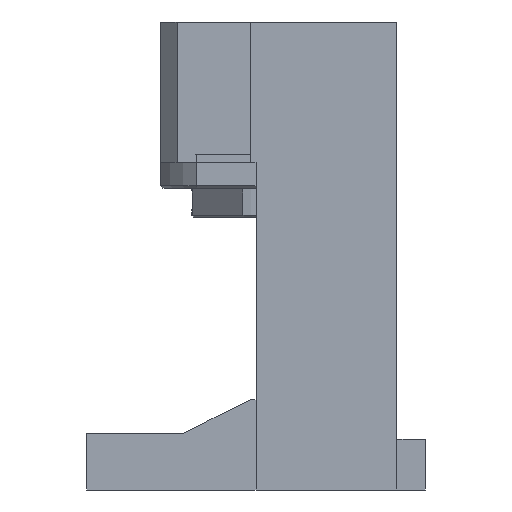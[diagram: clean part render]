
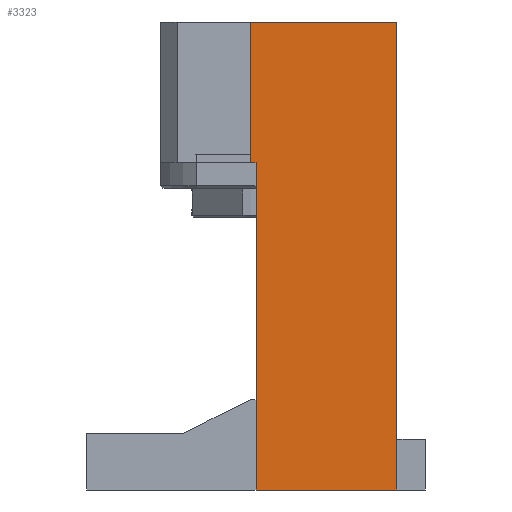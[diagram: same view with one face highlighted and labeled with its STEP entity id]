
A CAD part, left-side view. The second image highlights one B-rep face of the part: STEP entity #3323.
In plain terms, the highlighted planar face has unit normal (-1, 0, 0).
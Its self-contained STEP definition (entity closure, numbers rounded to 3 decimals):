
#365 = CARTESIAN_POINT ( 'NONE',  ( -32.5, 0., 5. ) ) ;
#929 = CARTESIAN_POINT ( 'NONE',  ( -32.5, 1., -78. ) ) ;
#1372 = EDGE_CURVE ( 'NONE', #7830, #7416, #2076, .T. ) ;
#1421 = EDGE_CURVE ( 'NONE', #7416, #6849, #6426, .T. ) ;
#1441 = VECTOR ( 'NONE', #8089, 1000. ) ;
#1535 = EDGE_CURVE ( 'NONE', #8199, #6849, #5389, .T. ) ;
#1769 = EDGE_CURVE ( 'NONE', #4828, #8199, #4887, .T. ) ;
#1804 = EDGE_CURVE ( 'NONE', #6371, #4828, #7832, .T. ) ;
#1846 = ORIENTED_EDGE ( 'NONE', *, *, #5576, .F. ) ;
#1942 = ORIENTED_EDGE ( 'NONE', *, *, #1421, .T. ) ;
#2076 = LINE ( 'NONE', #6078, #5296 ) ;
#2159 = VECTOR ( 'NONE', #7942, 1000. ) ;
#2315 = ORIENTED_EDGE ( 'NONE', *, *, #1535, .F. ) ;
#2437 = CARTESIAN_POINT ( 'NONE',  ( -32.5, -25., -78. ) ) ;
#2812 = DIRECTION ( 'NONE',  ( -1., 0., 0. ) ) ;
#2978 = ORIENTED_EDGE ( 'NONE', *, *, #1372, .T. ) ;
#3011 = FACE_OUTER_BOUND ( 'NONE', #7137, .T. ) ;
#3081 = ORIENTED_EDGE ( 'NONE', *, *, #1804, .F. ) ;
#3202 = CARTESIAN_POINT ( 'NONE',  ( -32.5, 1., 5. ) ) ;
#3271 = CARTESIAN_POINT ( 'NONE',  ( -32.5, 0., -78. ) ) ;
#3274 = DIRECTION ( 'NONE',  ( 0., 0., 1. ) ) ;
#3320 = CARTESIAN_POINT ( 'NONE',  ( -32.5, 0., 0. ) ) ;
#3323 = ADVANCED_FACE ( 'NONE', ( #3011 ), #7261, .T. ) ;
#3940 = LINE ( 'NONE', #3320, #5588 ) ;
#4288 = ORIENTED_EDGE ( 'NONE', *, *, #1769, .F. ) ;
#4689 = VECTOR ( 'NONE', #6590, 1000. ) ;
#4828 = VERTEX_POINT ( 'NONE', #6205 ) ;
#4868 = CARTESIAN_POINT ( 'NONE',  ( -32.5, 0., -20. ) ) ;
#4887 = LINE ( 'NONE', #929, #8234 ) ;
#5296 = VECTOR ( 'NONE', #6145, 1000. ) ;
#5389 = LINE ( 'NONE', #365, #2159 ) ;
#5576 = EDGE_CURVE ( 'NONE', #7830, #6371, #3940, .T. ) ;
#5588 = VECTOR ( 'NONE', #3274, 1000. ) ;
#5709 = AXIS2_PLACEMENT_3D ( 'NONE', #3271, #2812, #7581 ) ;
#6078 = CARTESIAN_POINT ( 'NONE',  ( -32.5, 0., -78. ) ) ;
#6145 = DIRECTION ( 'NONE',  ( 0., -1., 0. ) ) ;
#6205 = CARTESIAN_POINT ( 'NONE',  ( -32.5, 1., -20. ) ) ;
#6282 = CARTESIAN_POINT ( 'NONE',  ( -32.5, -25., -78. ) ) ;
#6371 = VERTEX_POINT ( 'NONE', #4868 ) ;
#6426 = LINE ( 'NONE', #6282, #4689 ) ;
#6590 = DIRECTION ( 'NONE',  ( 0., 0., 1. ) ) ;
#6849 = VERTEX_POINT ( 'NONE', #6968 ) ;
#6925 = CARTESIAN_POINT ( 'NONE',  ( -32.5, 0., -78. ) ) ;
#6968 = CARTESIAN_POINT ( 'NONE',  ( -32.5, -25., 5. ) ) ;
#7137 = EDGE_LOOP ( 'NONE', ( #2978, #1942, #2315, #4288, #3081, #1846 ) ) ;
#7261 = PLANE ( 'NONE',  #5709 ) ;
#7416 = VERTEX_POINT ( 'NONE', #2437 ) ;
#7581 = DIRECTION ( 'NONE',  ( 0., -1., 0. ) ) ;
#7830 = VERTEX_POINT ( 'NONE', #6925 ) ;
#7832 = LINE ( 'NONE', #8077, #1441 ) ;
#7942 = DIRECTION ( 'NONE',  ( 0., -1., 0. ) ) ;
#8077 = CARTESIAN_POINT ( 'NONE',  ( -32.5, 0., -20. ) ) ;
#8089 = DIRECTION ( 'NONE',  ( 0., 1., 0. ) ) ;
#8199 = VERTEX_POINT ( 'NONE', #3202 ) ;
#8202 = DIRECTION ( 'NONE',  ( 0., 0., 1. ) ) ;
#8234 = VECTOR ( 'NONE', #8202, 1000. ) ;
